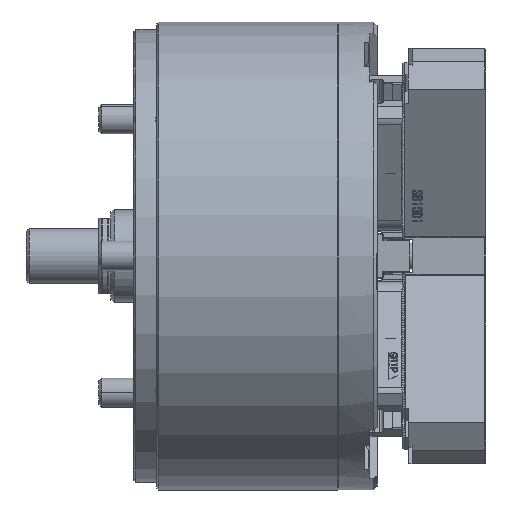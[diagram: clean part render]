
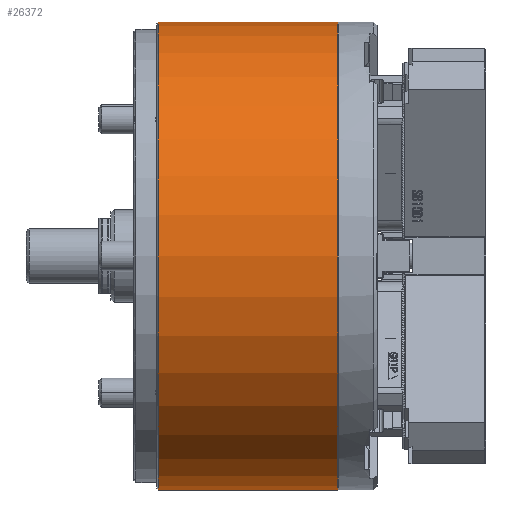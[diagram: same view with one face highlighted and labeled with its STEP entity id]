
A CAD part, front view. The second image highlights one B-rep face of the part: STEP entity #26372.
In plain terms, the highlighted cylindrical face has radius 127 mm (diameter 254 mm), a partial arc.
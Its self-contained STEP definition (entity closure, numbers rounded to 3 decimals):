
#6058 = CARTESIAN_POINT ( 'NONE',  ( 0., 0., 0. ) ) ;
#7210 = CARTESIAN_POINT ( 'NONE',  ( -7.4, 0., 127. ) ) ;
#11907 = LINE ( 'NONE', #145587, #49034 ) ;
#12988 = VERTEX_POINT ( 'NONE', #128706 ) ;
#18687 = DIRECTION ( 'NONE',  ( 1., 0., 0. ) ) ;
#19549 = CARTESIAN_POINT ( 'NONE',  ( 0., 0., 127. ) ) ;
#20564 = CARTESIAN_POINT ( 'NONE',  ( -104.7, 0., -127. ) ) ;
#26372 = ADVANCED_FACE ( 'NONE', ( #44367 ), #32623, .T. ) ;
#32233 = VERTEX_POINT ( 'NONE', #7210 ) ;
#32623 = CYLINDRICAL_SURFACE ( 'NONE', #54191, 127. ) ;
#33260 = ORIENTED_EDGE ( 'NONE', *, *, #58889, .T. ) ;
#44354 = DIRECTION ( 'NONE',  ( 1., 0., 0. ) ) ;
#44367 = FACE_OUTER_BOUND ( 'NONE', #117916, .T. ) ;
#49034 = VECTOR ( 'NONE', #58417, 1000. ) ;
#54191 = AXIS2_PLACEMENT_3D ( 'NONE', #6058, #18687, #155524 ) ;
#57280 = EDGE_CURVE ( 'NONE', #12988, #117015, #67042, .T. ) ;
#58417 = DIRECTION ( 'NONE',  ( 1., 0., 0. ) ) ;
#58889 = EDGE_CURVE ( 'NONE', #117015, #139513, #11907, .T. ) ;
#60288 = AXIS2_PLACEMENT_3D ( 'NONE', #118980, #44354, #131542 ) ;
#65139 = CARTESIAN_POINT ( 'NONE',  ( -7.4, 0., 0. ) ) ;
#67042 = CIRCLE ( 'NONE', #60288, 127. ) ;
#68252 = VECTOR ( 'NONE', #131822, 1000. ) ;
#72096 = LINE ( 'NONE', #19549, #68252 ) ;
#77643 = DIRECTION ( 'NONE',  ( 0., 0., -1. ) ) ;
#85128 = CIRCLE ( 'NONE', #157976, 127. ) ;
#86813 = ORIENTED_EDGE ( 'NONE', *, *, #116628, .F. ) ;
#108784 = ORIENTED_EDGE ( 'NONE', *, *, #57280, .T. ) ;
#110533 = CARTESIAN_POINT ( 'NONE',  ( -7.4, 0., -127. ) ) ;
#116628 = EDGE_CURVE ( 'NONE', #32233, #139513, #85128, .T. ) ;
#116780 = ORIENTED_EDGE ( 'NONE', *, *, #144655, .F. ) ;
#117015 = VERTEX_POINT ( 'NONE', #20564 ) ;
#117916 = EDGE_LOOP ( 'NONE', ( #116780, #108784, #33260, #86813 ) ) ;
#118980 = CARTESIAN_POINT ( 'NONE',  ( -104.7, 0., 0. ) ) ;
#128706 = CARTESIAN_POINT ( 'NONE',  ( -104.7, 0., 127. ) ) ;
#131542 = DIRECTION ( 'NONE',  ( 0., 0., -1. ) ) ;
#131822 = DIRECTION ( 'NONE',  ( 1., 0., 0. ) ) ;
#139513 = VERTEX_POINT ( 'NONE', #110533 ) ;
#144655 = EDGE_CURVE ( 'NONE', #12988, #32233, #72096, .T. ) ;
#145587 = CARTESIAN_POINT ( 'NONE',  ( 0., 0., -127. ) ) ;
#152316 = DIRECTION ( 'NONE',  ( 1., 0., 0. ) ) ;
#155524 = DIRECTION ( 'NONE',  ( 0., 0., -1. ) ) ;
#157976 = AXIS2_PLACEMENT_3D ( 'NONE', #65139, #152316, #77643 ) ;
